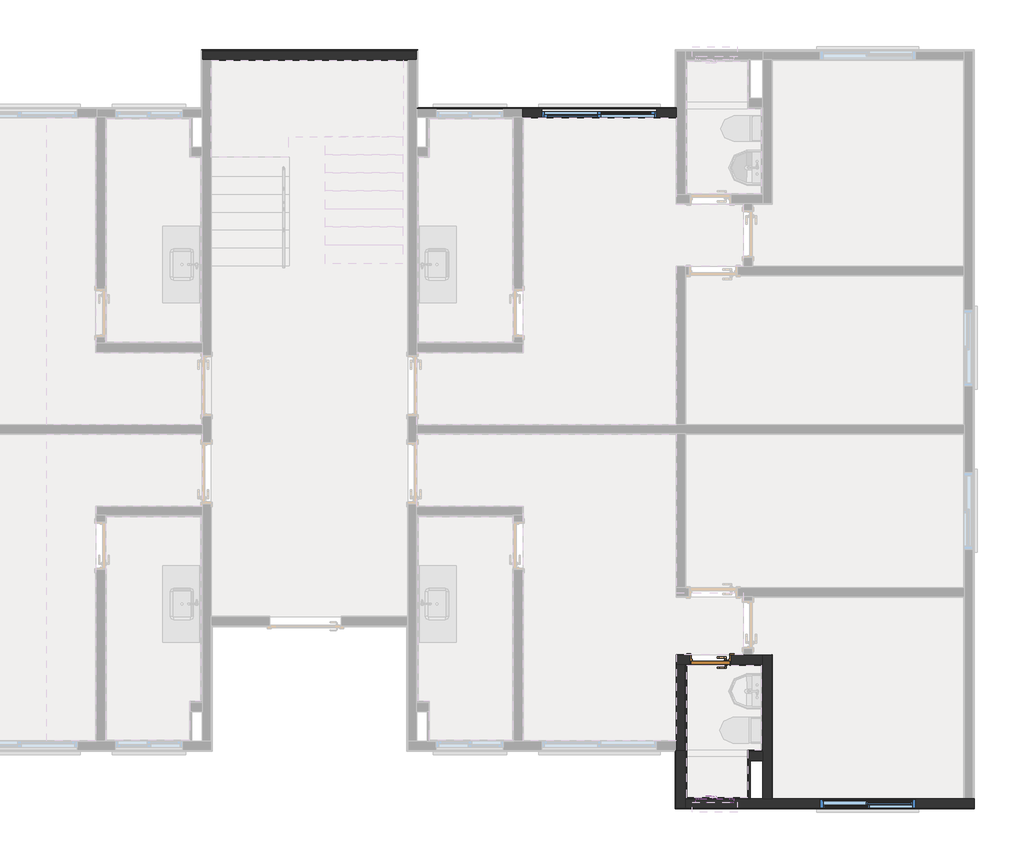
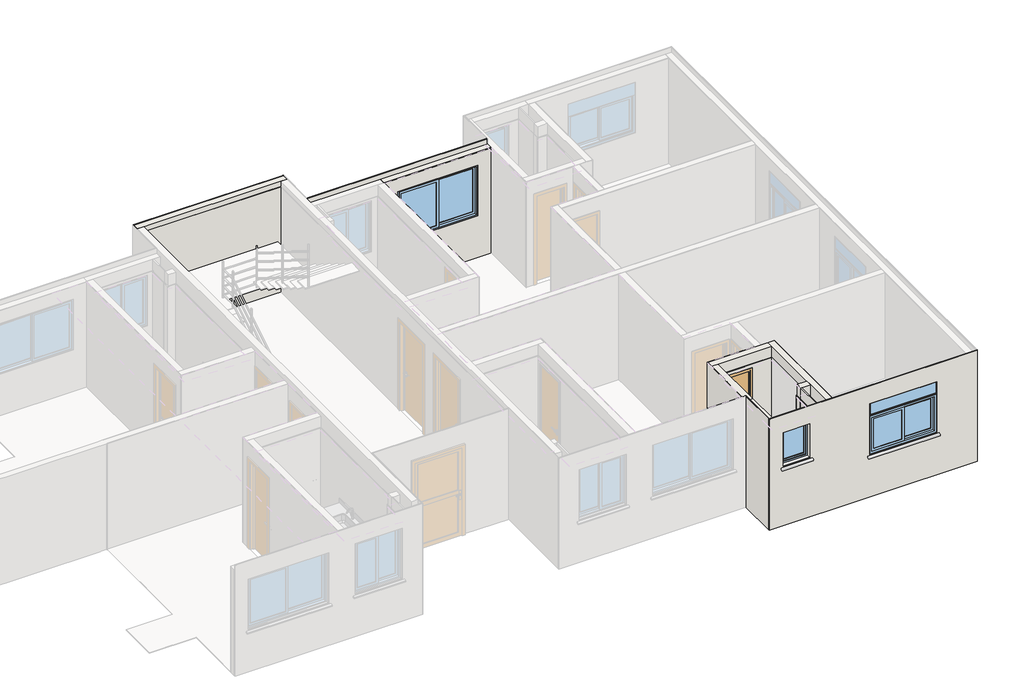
# One storey, part 6 of 9: 26 walls, 3 windows, 1 door.
"""IFC4 building model written with IfcOpenShell, lengths in millimetres."""

from ifc_helpers import new_model, si_unit, frame, origin, place, context, project, spatial, polyline, outline, extrude, faceted_brep, transform, mapped, element, save
from components import porta_de_madeira_interna_60_x_210_porta_de_madeira_interna_6d4bee1b, window_150x120_d34a449e, window_180x120_f0fd8075, window_60x80_6d4336cf

model = new_model("IFC4")

# Units and contexts
model_context = context("Model", 3, world=origin())
ifc_project = project(units=[si_unit("LENGTHUNIT", "METRE", prefix="MILLI")], contexts=[model_context])

# Site, building, storey
site = spatial("IfcSite", under=ifc_project)
building = spatial("IfcBuilding", under=site)
storey = spatial("IfcBuildingStorey", under=building, Name="2º Pavimento", Elevation=2630.0)

# Door
placement = place(None, origin())
porta_de_madeira_interna_60_x_210_porta_de_madeira_interna_shape = porta_de_madeira_interna_60_x_210_porta_de_madeira_interna_6d4bee1b(model_context)
element("IfcDoor", 1, ObjectType="Porta de Madeira Interna 60 x 210 : Porta de Madeira Interna 60 x 210", at=placement, inside=storey, context=model_context, shape_type="MappedRepresentation", body=[
    mapped(porta_de_madeira_interna_60_x_210_porta_de_madeira_interna_shape, transform((16681.9956991, 2796.8217615, 2630.0), x_axis=(-1.0, 0.0, 0.0), y_axis=(0.0, -1.0, 0.0), z_axis=(0.0, 0.0, 1.0))),
])

# Walls
element("IfcWall", 2, ObjectType="Mureta box", at=placement, inside=storey, context=model_context, shape_type="SweptSolid", body=[
    extrude(outline(polyline([(17290.0007274, 1294.9970972), (16310.0007274, 1294.9970972), (16310.0007274, 1304.9970972), (17290.0007274, 1304.9970972), (17290.0007274, 1294.9970972)])), frame((0.0, 0.0, 2630.0), z_axis=(0.0, 0.0, 1.0), x_axis=(1.0, 0.0, 0.0)), (0.0, 0.0, 1.0), 90.0),
    extrude(outline(polyline([(16310.0007274, 1374.9970972), (17290.0007274, 1374.9970972), (17290.0007274, 1364.9970972), (16310.0007274, 1364.9970972), (16310.0007274, 1374.9970972)])), frame((0.0, 0.0, 2630.0), z_axis=(0.0, 0.0, 1.0), x_axis=(1.0, 0.0, 0.0)), (0.0, 0.0, 1.0), 90.0),
    extrude(outline(polyline([(17290.0007274, 1364.9970972), (17290.0007274, 1304.9970972), (16310.0007274, 1304.9970972), (16310.0007274, 1364.9970972), (17290.0007274, 1364.9970972)])), frame((0.0, 0.0, 2630.0), z_axis=(0.0, 0.0, 1.0), x_axis=(1.0, 0.0, 0.0)), (0.0, 0.0, 1.0), 90.0),
])
element("IfcWall", 3, ObjectType="Alvenaria Estrutural", at=placement, inside=storey, context=model_context, shape_type="Brep", body=[
    faceted_brep([(12089.9984066, 12179.9995833, 2630.0), (12089.9984066, 12179.9995833, 5260.0), (11949.9984066, 12179.9995833, 5260.0), (8869.9963008, 12179.9995833, 5260.0), (8729.9963008, 12179.9995833, 5260.0), (8729.9963008, 12179.9995833, 2630.0), (8869.9963008, 12179.9995833, 2630.0), (8875.9991022, 12179.9995833, 2630.0), (11949.9984066, 12179.9995833, 2630.0), (12089.9984066, 12319.9995833, 2630.0), (8729.9963008, 12319.9995833, 2630.0), (8729.9963008, 12319.9995833, 5260.0), (12089.9984066, 12319.9995833, 5260.0)], [[[0, 1, 2, 3, 4, 5, 6, 7, 8]], [[9, 10, 11, 12]], [[6, 5, 10, 9, 0, 8, 7]], [[2, 1, 12, 11, 4, 3]], [[5, 4, 11, 10]], [[1, 0, 9, 12]]]),
])
element("IfcWall", 4, ObjectType="Alvenaria Estrutural", at=placement, inside=storey, context=model_context, shape_type="Brep", body=[
    faceted_brep([(17499.9970535, 1359.9970972, 2630.0), (17280.0007274, 1359.9970972, 2630.0), (17280.0007274, 1359.9970972, 5140.0), (17499.9970535, 1359.9970972, 5140.0), (17499.9970535, 1219.9970972, 2630.0), (17499.9970535, 1219.9970972, 5140.0), (17303.0007274, 1219.9970972, 5140.0), (17280.0007274, 1219.9970972, 5140.0), (17280.0007274, 1219.9970972, 2630.0), (17303.0007274, 1219.9970972, 2630.0)], [[[0, 1, 2, 3]], [[4, 5, 6, 7, 8, 9]], [[1, 0, 4, 9, 8]], [[3, 2, 7, 6, 5]], [[2, 1, 8, 7]], [[0, 3, 5, 4]]]),
])
element("IfcWall", 5, ObjectType="Alvenaria Estrutural", at=placement, inside=storey, context=model_context, shape_type="Brep", body=[
    faceted_brep([(17639.9970535, 619.9952456, 2630.0), (17639.9970535, 625.9952456, 2630.0), (17639.9970535, 2869.9967615, 2630.0), (17639.9970535, 2869.9967615, 5140.0), (17639.9970535, 625.9952456, 5140.0), (17639.9970535, 619.9952456, 5140.0), (17499.9970535, 619.9952456, 2630.0), (17499.9970535, 619.9952456, 5140.0), (17499.9970535, 1219.9970972, 5140.0), (17499.9970535, 1359.9970972, 5140.0), (17499.9970535, 2729.9967615, 5140.0), (17499.9970535, 2869.9967615, 5140.0), (17499.9970535, 2869.9967615, 2630.0), (17499.9970535, 2729.9967615, 2630.0), (17499.9970535, 2709.9967615, 2630.0), (17499.9970535, 1379.9970972, 2630.0), (17499.9970535, 1359.9970972, 2630.0), (17499.9970535, 1219.9970972, 2630.0)], [[[0, 1, 2, 3, 4, 5]], [[6, 7, 8, 9, 10, 11, 12, 13, 14, 15, 16, 17]], [[1, 0, 6, 17, 16, 15, 14, 13, 12, 2]], [[4, 3, 11, 10, 9, 8, 7, 5]], [[3, 2, 12, 11]], [[0, 5, 7, 6]]]),
])
element("IfcWall", 6, ObjectType="Alvenaria Estrutural", at=placement, inside=storey, context=model_context, shape_type="Brep", body=[
    faceted_brep([(16149.9956991, 2869.9967615, 5140.0), (17193.9966432, 2869.9967615, 5140.0), (17199.9966432, 2869.9967615, 5140.0), (17339.9966432, 2869.9967615, 5140.0), (17499.9970535, 2869.9967615, 5140.0), (17499.9970535, 2869.9967615, 2630.0), (17339.9966432, 2869.9967615, 2630.0), (17199.9966432, 2869.9967615, 2630.0), (17193.9966432, 2869.9967615, 2630.0), (17006.9956991, 2869.9967615, 2630.0), (17006.9956991, 2869.9967615, 4755.0), (16356.9956991, 2869.9967615, 4755.0), (16356.9956991, 2869.9967615, 2630.0), (16149.9956991, 2869.9967615, 2630.0), (17499.9970535, 2729.9967615, 5140.0), (16289.9956991, 2729.9967615, 5140.0), (16149.9956991, 2729.9967615, 5140.0), (16149.9956991, 2729.9967615, 2630.0), (16289.9956991, 2729.9967615, 2630.0), (16356.9956991, 2729.9967615, 2630.0), (16356.9956991, 2729.9967615, 4755.0), (17006.9956991, 2729.9967615, 4755.0), (17006.9956991, 2729.9967615, 2630.0), (17499.9970535, 2729.9967615, 2630.0)], [[[0, 1, 2, 3, 4, 5, 6, 7, 8, 9, 10, 11, 12, 13]], [[14, 15, 16, 17, 18, 19, 20, 21, 22, 23]], [[6, 5, 23, 22, 9, 8, 7]], [[1, 0, 16, 15, 14, 4, 3, 2]], [[12, 11, 20, 19]], [[11, 10, 21, 20]], [[10, 9, 22, 21]], [[0, 13, 17, 16]], [[5, 4, 14, 23]], [[13, 12, 19, 18, 17]]]),
])
element("IfcWall", 7, ObjectType="Alvenaria Estrutural", at=placement, inside=storey, context=model_context, shape_type="Brep", body=[
    faceted_brep([(16289.9960602, 479.9952456, 2630.0), (16289.9960602, 619.9952456, 2630.0), (16289.9960602, 1374.9970972, 2630.0), (16289.9960602, 1374.9970972, 5140.0), (16289.9960602, 619.9952456, 5140.0), (16289.9960602, 479.9952456, 5140.0), (16149.9960602, 479.9952456, 2630.0), (16149.9960602, 479.9952456, 5140.0), (16149.9960602, 1374.9970972, 5140.0), (16149.9960602, 1374.9970972, 2630.0)], [[[0, 1, 2, 3, 4, 5]], [[6, 7, 8, 9]], [[1, 0, 6, 9, 2]], [[3, 2, 9, 8]], [[4, 3, 8, 7, 5]], [[0, 5, 7, 6]]]),
])
element("IfcWall", 8, ObjectType="Alvenaria Estrutural", at=placement, inside=storey, context=model_context, shape_type="Brep", body=[
    faceted_brep([(16289.9956991, 1374.9970972, 2630.0), (16289.9956991, 2709.9967615, 2630.0), (16289.9956991, 2729.9967615, 2630.0), (16289.9956991, 2729.9967615, 4880.0), (16289.9956991, 2729.9967615, 5140.0), (16289.9956991, 1374.9970972, 5140.0), (16149.9956991, 1374.9970972, 2630.0), (16149.9956991, 1374.9970972, 5140.0), (16149.9956991, 1519.9983274, 5140.0), (16149.9956991, 1525.9983274, 5140.0), (16149.9956991, 2729.9967615, 5140.0), (16149.9956991, 2729.9967615, 2630.0), (16149.9956991, 1525.9983274, 2630.0), (16149.9956991, 1519.9983274, 2630.0)], [[[0, 1, 2, 3, 4, 5]], [[6, 7, 8, 9, 10, 11, 12, 13]], [[1, 0, 6, 13, 12, 11, 2]], [[5, 4, 10, 9, 8, 7]], [[0, 5, 7, 6]], [[3, 2, 11, 10, 4]]]),
])
element("IfcWall", 9, ObjectType="Alvenaria Estrutural", at=placement, inside=storey, context=model_context, shape_type="Brep", body=[
    faceted_brep([(16149.9956991, 11420.0223004, 2630.0), (16133.9970535, 11420.0223004, 2630.0), (13739.9956991, 11420.0223004, 2630.0), (13739.9956991, 11420.0223004, 5140.0), (16149.9956991, 11420.0223004, 5140.0), (14044.9954574, 11420.0223004, 4830.0), (14044.9954574, 11420.0223004, 3630.0), (13994.9954574, 11420.0223004, 3630.0), (13994.9954574, 11420.0223004, 3581.3083694), (15894.9954574, 11420.0223004, 3581.3083694), (15894.9954574, 11420.0223004, 3630.0), (15844.9954574, 11420.0223004, 3630.0), (15844.9954574, 11420.0223004, 4830.0), (13739.9956991, 11280.0223004, 2630.0), (13746.9960213, 11280.0223004, 2630.0), (13752.9960213, 11280.0223004, 2630.0), (16143.9956991, 11280.0223004, 2630.0), (16149.9956991, 11280.0223004, 2630.0), (16149.9956991, 11280.0223004, 5140.0), (16143.9956991, 11280.0223004, 5140.0), (13752.9960213, 11280.0223004, 5140.0), (13746.9960213, 11280.0223004, 5140.0), (13739.9956991, 11280.0223004, 5140.0), (14044.9954574, 11280.0223004, 3630.0), (14044.9954574, 11280.0223004, 4830.0), (15844.9954574, 11280.0223004, 4830.0), (15844.9954574, 11280.0223004, 3630.0), (14044.9954574, 11322.5223004, 3630.0), (15844.9954574, 11322.5223004, 3630.0), (15894.9954574, 11322.5223004, 3602.0326341), (15894.9954574, 11322.5223004, 3630.0), (13994.9954574, 11322.5223004, 3630.0), (13994.9954574, 11322.5223004, 3602.0326341)], [[[0, 1, 2, 3, 4], [5, 6, 7, 8, 9, 10, 11, 12]], [[13, 14, 15, 16, 17, 18, 19, 20, 21, 22], [23, 24, 25, 26]], [[1, 0, 17, 16, 15, 14, 13, 2]], [[3, 2, 13, 22]], [[4, 3, 22, 21, 20, 19, 18]], [[0, 4, 18, 17]], [[6, 5, 24, 23, 27]], [[5, 12, 25, 24]], [[12, 11, 28, 26, 25]], [[23, 26, 28, 27]], [[10, 9, 29, 30]], [[8, 7, 31, 32]], [[27, 28, 30, 29, 32, 31]], [[11, 10, 30, 28]], [[9, 8, 32, 29]], [[7, 6, 27, 31]]]),
])
element("IfcWall", 10, ObjectType="Alvenaria Estrutural", at=placement, inside=storey, context=model_context, shape_type="Brep", body=[
    faceted_brep([(20805.9970535, 619.9952456, 2630.0), (20789.9970535, 619.9952456, 2630.0), (20649.9955249, 619.9952456, 2630.0), (20643.9955249, 619.9952456, 2630.0), (17639.9970535, 619.9952456, 2630.0), (17499.9970535, 619.9952456, 2630.0), (17303.0007274, 619.9952456, 2630.0), (17280.0007274, 619.9952456, 2630.0), (16309.9956991, 619.9952456, 2630.0), (16289.9960602, 619.9952456, 2630.0), (16289.9960602, 619.9952456, 4880.0), (16289.9960602, 619.9952456, 5140.0), (17280.0007274, 619.9952456, 5140.0), (17303.0007274, 619.9952456, 5140.0), (17499.9970535, 619.9952456, 5140.0), (17639.9970535, 619.9952456, 5140.0), (20643.9955249, 619.9952456, 5140.0), (20649.9955249, 619.9952456, 5140.0), (20789.9970535, 619.9952456, 5140.0), (20805.9970535, 619.9952456, 5140.0), (16449.9960602, 619.9952456, 4830.0), (16449.9960602, 619.9952456, 4030.0), (17049.9960602, 619.9952456, 4030.0), (17049.9960602, 619.9952456, 4830.0), (18394.9962631, 619.9952456, 4830.0), (18394.9962631, 619.9952456, 3630.0), (19894.9962631, 619.9952456, 3630.0), (19894.9962631, 619.9952456, 4830.0), (16289.9960602, 479.9952456, 2630.0), (20805.9970535, 479.9952456, 2630.0), (20805.9970535, 479.9952456, 5140.0), (20789.9970535, 479.9952456, 5140.0), (16289.9960602, 479.9952456, 5140.0), (17099.9960602, 479.9952456, 4030.0), (17099.9960602, 479.9952456, 3981.3083694), (16399.9960602, 479.9952456, 3981.3083694), (16399.9960602, 479.9952456, 4030.0), (16449.9960602, 479.9952456, 4030.0), (16449.9960602, 479.9952456, 4830.0), (17049.9960602, 479.9952456, 4830.0), (17049.9960602, 479.9952456, 4030.0), (19944.9962631, 479.9952456, 3630.0), (19944.9962631, 479.9952456, 3581.3083694), (18344.9962631, 479.9952456, 3581.3083694), (18344.9962631, 479.9952456, 3630.0), (18394.9962631, 479.9952456, 3630.0), (18394.9962631, 479.9952456, 4830.0), (19894.9962631, 479.9952456, 4830.0), (19894.9962631, 479.9952456, 3630.0), (19944.9962631, 577.4952456, 3630.0), (19944.9962631, 577.4952456, 3602.0326341), (18344.9962631, 577.4952456, 3602.0326341), (18344.9962631, 577.4952456, 3630.0), (19894.9962631, 577.4952456, 3630.0), (18394.9962631, 577.4952456, 3630.0), (17099.9960602, 577.4952456, 4030.0), (17099.9960602, 577.4952456, 4002.0326341), (16399.9960602, 577.4952456, 4002.0326341), (16399.9960602, 577.4952456, 4030.0), (17049.9960602, 577.4952456, 4030.0), (16449.9960602, 577.4952456, 4030.0)], [[[0, 1, 2, 3, 4, 5, 6, 7, 8, 9, 10, 11, 12, 13, 14, 15, 16, 17, 18, 19], [20, 21, 22, 23], [24, 25, 26, 27]], [[28, 29, 30, 31, 32], [33, 34, 35, 36, 37, 38, 39, 40], [41, 42, 43, 44, 45, 46, 47, 48]], [[1, 0, 29, 28, 9, 8, 7, 6, 5, 4, 3, 2]], [[12, 11, 32, 31, 30, 19, 18, 17, 16, 15, 14, 13]], [[42, 41, 49, 50]], [[44, 43, 51, 52]], [[50, 49, 53, 54, 52, 51]], [[41, 48, 53, 49]], [[43, 42, 50, 51]], [[25, 24, 46, 45, 54]], [[24, 27, 47, 46]], [[27, 26, 53, 48, 47]], [[26, 25, 54, 53]], [[34, 33, 55, 56]], [[36, 35, 57, 58]], [[56, 55, 59, 60, 58, 57]], [[33, 40, 59, 55]], [[35, 34, 56, 57]], [[21, 20, 38, 37, 60]], [[20, 23, 39, 38]], [[23, 22, 59, 40, 39]], [[22, 21, 60, 59]], [[0, 19, 30, 29]], [[10, 9, 28, 32, 11]], [[37, 36, 58, 60]], [[45, 44, 52, 54]]]),
])
element("IfcWall", 11, ObjectType="Azulejo", at=placement, inside=storey, context=model_context, shape_type="SolidModel", body=[
    faceted_brep([(17479.9970535, 2709.9967615, 2630.0), (17006.9956991, 2709.9967615, 2630.0), (17006.9956991, 2719.9967615, 2630.0), (17489.9970535, 2719.9967615, 2630.0), (17489.9970535, 2709.9967615, 2630.0), (16309.9956991, 2709.9967615, 4880.0), (17479.9970535, 2709.9967615, 4880.0), (17489.9970535, 2709.9967615, 4880.0), (17489.9970535, 2719.9967615, 4880.0), (16299.9956991, 2719.9967615, 4880.0), (16299.9956991, 2709.9967615, 4880.0), (16356.9956991, 2709.9967615, 4755.0), (16356.9956991, 2709.9967615, 2630.0), (16356.9956991, 2719.9967615, 2630.0), (16356.9956991, 2719.9967615, 4755.0), (17006.9956991, 2719.9967615, 4755.0), (17006.9956991, 2709.9967615, 4755.0), (16309.9956991, 2709.9967615, 2630.0), (16299.9956991, 2709.9967615, 2630.0), (16299.9956991, 2719.9967615, 2630.0)], [[[0, 1, 2, 3, 4]], [[5, 6, 7, 8, 9, 10]], [[11, 12, 13, 14]], [[11, 14, 15, 16]], [[2, 1, 16, 15]], [[13, 12, 17, 18, 19]], [[14, 13, 19, 9, 8, 3, 2, 15]], [[1, 0, 4, 7, 6, 5, 10, 18, 17, 12, 11, 16]], [[4, 3, 8, 7]], [[10, 9, 19, 18]]]),
    extrude(outline(polyline([(2630.0, 17006.9956991), (2630.0, 17499.9970535), (4880.0, 17499.9970535), (4880.0, 16289.9956991), (2630.0, 16289.9956991), (2630.0, 16356.9956991), (4755.0, 16356.9956991), (4755.0, 17006.9956991), (2630.0, 17006.9956991)])), frame((0.0, 2719.9967615, 0.0), z_axis=(0.0, 1.0, 0.0), x_axis=(0.0, 0.0, 1.0)), (0.0, 0.0, 1.0), 10.0),
])
element("IfcWall", 12, ObjectType="Azulejo", at=placement, inside=storey, context=model_context, shape_type="SolidModel", body=[
    faceted_brep([(16299.9956991, 2709.9967615, 2630.0), (16309.9956991, 2709.9967615, 2630.0), (16309.9956991, 639.9950349, 2630.0), (16309.9956991, 629.9950349, 2630.0), (16299.9956991, 629.9950349, 2630.0), (16309.9956991, 639.9950349, 4880.0), (16309.9956991, 2709.9967615, 4880.0), (16299.9956991, 2709.9967615, 4880.0), (16299.9956991, 629.9950349, 4880.0), (16309.9956991, 629.9950349, 4880.0)], [[[0, 1, 2, 3, 4]], [[5, 6, 7, 8, 9]], [[1, 0, 7, 6]], [[7, 0, 4, 8]], [[2, 1, 6, 5, 9, 3]], [[4, 3, 9, 8]]]),
    extrude(outline(polyline([(16289.9956991, 619.9952456), (16289.9956991, 2719.9967615), (16299.9956991, 2719.9967615), (16299.9956991, 619.9952456), (16289.9956991, 619.9952456)])), frame((0.0, 0.0, 2630.0), z_axis=(0.0, 0.0, 1.0), x_axis=(1.0, 0.0, 0.0)), (0.0, 0.0, 1.0), 2250.0),
])
element("IfcWall", 13, ObjectType="Azulejo", at=placement, inside=storey, context=model_context, shape_type="SolidModel", body=[
    faceted_brep([(17270.0007274, 639.9950349, 2630.0), (17280.0007274, 639.9950349, 2630.0), (17280.0007274, 629.9950349, 2630.0), (16309.9956991, 629.9950349, 2630.0), (16309.9956991, 639.9950349, 2630.0), (17270.0007274, 639.9950349, 4880.0), (16309.9956991, 639.9950349, 4880.0), (16309.9956991, 629.9950349, 4880.0), (17280.0007274, 629.9950349, 4880.0), (17280.0007274, 639.9950349, 4880.0), (16449.9960602, 639.9950349, 4030.0), (16449.9960602, 639.9950349, 4830.0), (16449.9960602, 629.9950349, 4830.0), (16449.9960602, 629.9950349, 4030.0), (17049.9960602, 639.9950349, 4830.0), (17049.9960602, 629.9950349, 4830.0), (17049.9960602, 639.9950349, 4030.0), (17049.9960602, 629.9950349, 4030.0)], [[[0, 1, 2, 3, 4]], [[5, 6, 7, 8, 9]], [[10, 11, 12, 13]], [[11, 14, 15, 12]], [[14, 16, 17, 15]], [[16, 10, 13, 17]], [[6, 4, 3, 7]], [[1, 9, 8, 2]], [[3, 2, 8, 7], [13, 12, 15, 17]], [[4, 6, 5, 9, 1, 0], [10, 16, 14, 11]]]),
    extrude(outline(polyline([(2630.0, 16299.9956991), (2630.0, 17280.0007274), (4880.0, 17280.0007274), (4880.0, 16299.9956991), (2630.0, 16299.9956991)]), holes=[polyline([(4030.0, 16449.9960602), (4830.0, 16449.9960602), (4830.0, 17049.9960602), (4030.0, 17049.9960602), (4030.0, 16449.9960602)])]), frame((0.0, 619.9950349, 0.0), z_axis=(0.0, 1.0, 0.0), x_axis=(0.0, 0.0, 1.0)), (0.0, 0.0, 1.0), 10.0),
])
element("IfcWall", 14, ObjectType="Azulejo", at=placement, inside=storey, context=model_context, shape_type="SweptSolid", body=[
    extrude(outline(polyline([(17270.0007274, 1219.9970972), (17270.0007274, 1369.9970972), (17280.0007274, 1369.9970972), (17280.0007274, 1219.9970972), (17270.0007274, 1219.9970972)])), frame((0.0, 0.0, 2630.0), z_axis=(0.0, 0.0, 1.0), x_axis=(1.0, 0.0, 0.0)), (0.0, 0.0, 1.0), 2250.0),
    extrude(outline(polyline([(17290.0007274, 1359.9970972), (17290.0007274, 1219.9970972), (17280.0007274, 1219.9970972), (17280.0007274, 1359.9970972), (17290.0007274, 1359.9970972)])), frame((0.0, 0.0, 2630.0), z_axis=(0.0, 0.0, 1.0), x_axis=(1.0, 0.0, 0.0)), (0.0, 0.0, 1.0), 2250.0),
])
element("IfcWall", 15, ObjectType="Azulejo", at=placement, inside=storey, context=model_context, shape_type="Brep", body=[
    faceted_brep([(17270.0007274, 1369.9970972, 2630.0), (17270.0007274, 1379.9970972, 2630.0), (17479.9970535, 1379.9970972, 2630.0), (17489.9970535, 1379.9970972, 2630.0), (17489.9970535, 1369.9970972, 2630.0), (17479.9970535, 1379.9970972, 4880.0), (17270.0007274, 1379.9970972, 4880.0), (17270.0007274, 1369.9970972, 4880.0), (17489.9970535, 1369.9970972, 4880.0), (17489.9970535, 1379.9970972, 4880.0)], [[[0, 1, 2, 3, 4]], [[5, 6, 7, 8, 9]], [[1, 0, 7, 6]], [[7, 0, 4, 8]], [[2, 1, 6, 5, 9, 3]], [[4, 3, 9, 8]]]),
    faceted_brep([(17499.9970535, 1369.9970972, 2630.0), (17280.0007274, 1369.9970972, 2630.0), (17280.0007274, 1369.9970972, 4880.0), (17499.9970535, 1369.9970972, 4880.0), (17499.9970535, 1359.9970972, 2630.0), (17499.9970535, 1359.9970972, 4880.0), (17290.0007274, 1359.9970972, 4880.0), (17280.0007274, 1359.9970972, 4880.0), (17280.0007274, 1359.9970972, 2630.0), (17290.0007274, 1359.9970972, 2630.0)], [[[0, 1, 2, 3]], [[4, 5, 6, 7, 8, 9]], [[9, 8, 1, 0, 4]], [[6, 5, 3, 2, 7]], [[5, 4, 0, 3]], [[8, 7, 2, 1]]]),
])
element("IfcWall", 16, ObjectType="Azulejo - Shaft", at=placement, inside=storey, context=model_context, shape_type="SweptSolid", body=[
    extrude(outline(polyline([(17280.0007274, 1219.9970972), (17280.0007274, 639.9950349), (17270.0007274, 639.9950349), (17270.0007274, 1219.9970972), (17280.0007274, 1219.9970972)])), frame((0.0, 0.0, 2630.0), z_axis=(0.0, 0.0, 1.0), x_axis=(1.0, 0.0, 0.0)), (0.0, 0.0, 1.0), 2250.0),
])
element("IfcWall", 17, ObjectType="Gesso Liso + Pintura", at=placement, inside=storey, context=model_context, shape_type="SolidModel", body=[
    faceted_brep([(17645.9970535, 625.9952456, 2630.0), (20643.9955249, 625.9952456, 2630.0), (20643.9955249, 624.9952456, 2630.0), (17644.9970535, 624.9952456, 2630.0), (17644.9970535, 625.9952456, 2630.0), (20643.9955249, 624.9952456, 5140.0), (20643.9955249, 625.9952456, 5140.0), (17645.9970535, 625.9952456, 5140.0), (17644.9970535, 625.9952456, 5140.0), (17644.9970535, 624.9952456, 5140.0), (18394.9962631, 625.9952456, 3630.0), (18394.9962631, 625.9952456, 4830.0), (18394.9962631, 624.9952456, 4830.0), (18394.9962631, 624.9952456, 3630.0), (19894.9962631, 625.9952456, 4830.0), (19894.9962631, 624.9952456, 4830.0), (19894.9962631, 625.9952456, 3630.0), (19894.9962631, 624.9952456, 3630.0)], [[[0, 1, 2, 3, 4]], [[5, 6, 7, 8, 9]], [[10, 11, 12, 13]], [[12, 11, 14, 15]], [[15, 14, 16, 17]], [[10, 13, 17, 16]], [[2, 1, 6, 5]], [[2, 5, 9, 3], [13, 12, 15, 17]], [[1, 0, 4, 8, 7, 6], [11, 10, 16, 14]], [[4, 3, 9, 8]]]),
    extrude(outline(polyline([(2630.0, 20644.9955249), (5140.0, 20644.9955249), (5140.0, 17639.9970535), (2630.0, 17639.9970535), (2630.0, 20644.9955249)]), holes=[polyline([(3630.0, 18394.9962631), (4830.0, 18394.9962631), (4830.0, 19894.9962631), (3630.0, 19894.9962631), (3630.0, 18394.9962631)])]), frame((0.0, 619.9952456, 0.0), z_axis=(0.0, 1.0, 0.0), x_axis=(0.0, 0.0, 1.0)), (0.0, 0.0, 1.0), 5.0),
])
element("IfcWall", 18, ObjectType="Gesso Liso + Pintura", at=placement, inside=storey, context=model_context, shape_type="SolidModel", body=[
    extrude(outline(polyline([(17645.9970535, 2875.9967615), (17645.9970535, 625.9952456), (17644.9970535, 625.9952456), (17644.9970535, 2875.9967615), (17645.9970535, 2875.9967615)])), frame((0.0, 0.0, 2630.0), z_axis=(0.0, 0.0, 1.0), x_axis=(1.0, 0.0, 0.0)), (0.0, 0.0, 1.0), 2510.0),
    faceted_brep([(17644.9970535, 624.9952456, 2630.0), (17644.9970535, 2874.9967615, 2630.0), (17644.9970535, 2874.9967615, 5140.0), (17644.9970535, 624.9952456, 5140.0), (17639.9970535, 624.9952456, 2630.0), (17639.9970535, 624.9952456, 5140.0), (17639.9970535, 2869.9967615, 5140.0), (17639.9970535, 2874.9967615, 5140.0), (17639.9970535, 2874.9967615, 2630.0), (17639.9970535, 2869.9967615, 2630.0)], [[[0, 1, 2, 3]], [[4, 5, 6, 7, 8, 9]], [[9, 8, 1, 0, 4]], [[6, 5, 3, 2, 7]], [[5, 4, 0, 3]], [[8, 7, 2, 1]]]),
])
element("IfcWall", 19, ObjectType="Gesso Liso + Pintura", at=placement, inside=storey, context=model_context, shape_type="Brep", body=[
    faceted_brep([(16143.9956991, 1449.9983274, 2640.0), (16144.9956991, 1449.9983274, 2640.0), (16144.9956991, 1519.9983274, 2640.0), (16143.9956991, 1519.9983274, 2640.0), (16143.9956991, 1449.9983274, 2630.0), (16143.9956991, 2875.9967615, 2630.0), (16144.9956991, 2875.9967615, 2630.0), (16144.9956991, 1449.9983274, 2630.0), (16143.9956991, 2875.9967615, 2640.0), (16143.9956991, 2875.9967615, 5140.0), (16144.9956991, 2875.9967615, 5140.0), (16144.9956991, 2875.9967615, 2640.0), (16143.9956991, 1519.9983274, 5140.0), (16144.9956991, 1519.9983274, 5140.0)], [[[0, 1, 2, 3]], [[4, 5, 6, 7]], [[4, 7, 1, 0]], [[6, 5, 8, 9, 10, 11]], [[5, 4, 0, 3, 12, 9, 8]], [[7, 6, 11, 10, 13, 2, 1]], [[12, 3, 2, 13]], [[9, 12, 13, 10]]]),
    faceted_brep([(16144.9956991, 1519.9983274, 2640.0), (16144.9956991, 1449.9983274, 2640.0), (16149.9956991, 1449.9983274, 2640.0), (16149.9956991, 1519.9983274, 2640.0), (16144.9956991, 2874.9967615, 2630.0), (16144.9956991, 1449.9983274, 2630.0), (16144.9956991, 1519.9983274, 5140.0), (16144.9956991, 2874.9967615, 5140.0), (16144.9956991, 2874.9967615, 2640.0), (16149.9956991, 2874.9967615, 2630.0), (16149.9956991, 2869.9967615, 2630.0), (16149.9956991, 1449.9983274, 2630.0), (16149.9956991, 2874.9967615, 2640.0), (16149.9956991, 2874.9967615, 5140.0), (16149.9956991, 2869.9967615, 5140.0), (16149.9956991, 1519.9983274, 5140.0)], [[[0, 1, 2, 3]], [[4, 5, 1, 0, 6, 7, 8]], [[5, 4, 9, 10, 11]], [[1, 5, 11, 2]], [[11, 10, 9, 12, 13, 14, 15, 3, 2]], [[12, 9, 4, 8, 7, 13]], [[6, 0, 3, 15]], [[7, 6, 15, 14, 13]]]),
])
element("IfcWall", 20, ObjectType="Gesso Liso + Pintura", at=placement, inside=storey, context=model_context, shape_type="SweptSolid", body=[
    extrude(outline(polyline([(2630.0, 16144.9956991), (2630.0, 16356.9956991), (4755.0, 16356.9956991), (4755.0, 17006.9956991), (2630.0, 17006.9956991), (2630.0, 17199.9966432), (5140.0, 17199.9966432), (5140.0, 16144.9956991), (2630.0, 16144.9956991)])), frame((0.0, 2874.9967615, 0.0), z_axis=(0.0, 1.0, 0.0), x_axis=(0.0, 0.0, 1.0)), (0.0, 0.0, 1.0), 1.0),
    extrude(outline(polyline([(5140.0, 17199.9966432), (5140.0, 16149.9956991), (2630.0, 16149.9956991), (2630.0, 16356.9956991), (4755.0, 16356.9956991), (4755.0, 17006.9956991), (2630.0, 17006.9956991), (2630.0, 17199.9966432), (5140.0, 17199.9966432)])), frame((0.0, 2869.9967615, 0.0), z_axis=(0.0, 1.0, 0.0), x_axis=(0.0, 0.0, 1.0)), (0.0, 0.0, 1.0), 5.0),
])
element("IfcWall", 21, ObjectType="Gesso Liso + Pintura", at=placement, inside=storey, context=model_context, shape_type="SweptSolid", body=[
    extrude(outline(polyline([(2630.0, 13746.9960213), (2630.0, 16149.9960602), (5140.0, 16149.9960602), (5140.0, 13746.9960213), (2630.0, 13746.9960213)]), holes=[polyline([(3630.0, 14044.9954574), (4830.0, 14044.9954574), (4830.0, 15844.9954574), (3630.0, 15844.9954574), (3630.0, 14044.9954574)])]), frame((0.0, 11274.0223004, 0.0), z_axis=(0.0, 1.0, 0.0), x_axis=(0.0, 0.0, 1.0)), (0.0, 0.0, 1.0), 1.0),
    extrude(outline(polyline([(2630.0, 13746.9960213), (2630.0, 16149.9960602), (5140.0, 16149.9960602), (5140.0, 13746.9960213), (2630.0, 13746.9960213)]), holes=[polyline([(3630.0, 14044.9954574), (4830.0, 14044.9954574), (4830.0, 15844.9954574), (3630.0, 15844.9954574), (3630.0, 14044.9954574)])]), frame((0.0, 11275.0223004, 0.0), z_axis=(0.0, 1.0, 0.0), x_axis=(0.0, 0.0, 1.0)), (0.0, 0.0, 1.0), 5.0),
])
element("IfcWall", 22, ObjectType="Gesso Liso + Pintura", at=placement, inside=storey, context=model_context, shape_type="SolidModel", body=[
    faceted_brep([(11943.9984066, 12173.9995833, 2630.0), (8875.9991022, 12173.9995833, 2630.0), (8875.9991022, 12174.9995833, 2630.0), (11944.9984066, 12174.9995833, 2630.0), (11944.9984066, 12173.9995833, 2630.0), (8875.9991022, 12174.9995833, 5140.0), (8875.9991022, 12173.9995833, 5140.0), (11943.9984066, 12173.9995833, 5140.0), (11944.9984066, 12173.9995833, 5140.0), (11944.9984066, 12174.9995833, 5140.0)], [[[0, 1, 2, 3, 4]], [[5, 6, 7, 8, 9]], [[2, 1, 6, 5]], [[2, 5, 9, 3]], [[1, 0, 4, 8, 7, 6]], [[4, 3, 9, 8]]]),
    extrude(outline(polyline([(8874.9991022, 12179.9995833), (11949.9984066, 12179.9995833), (11949.9984066, 12174.9995833), (8874.9991022, 12174.9995833), (8874.9991022, 12179.9995833)])), frame((0.0, 0.0, 2630.0), z_axis=(0.0, 0.0, 1.0), x_axis=(1.0, 0.0, 0.0)), (0.0, 0.0, 1.0), 2510.0),
])
element("IfcWall", 23, ObjectType="Reboco + Pintura Externa", at=placement, inside=storey, context=model_context, shape_type="Brep", body=[
    faceted_brep([(16449.9960602, 464.9952456, 4030.0), (16449.9960602, 464.9952456, 4830.0), (16449.9960602, 463.9952456, 4830.0), (16449.9960602, 463.9952456, 4030.0), (17049.9960602, 464.9952456, 4030.0), (17049.9960602, 463.9952456, 4030.0), (17049.9960602, 464.9952456, 4830.0), (17049.9960602, 463.9952456, 4830.0), (18394.9962631, 464.9952456, 3630.0), (18394.9962631, 464.9952456, 4830.0), (18394.9962631, 463.9952456, 4830.0), (18394.9962631, 463.9952456, 3630.0), (19894.9962631, 464.9952456, 3630.0), (19894.9962631, 463.9952456, 3630.0), (19894.9962631, 464.9952456, 4830.0), (19894.9962631, 463.9952456, 4830.0), (16133.9960602, 464.9952456, 2630.0), (20805.9970535, 464.9952456, 2630.0), (20805.9970535, 463.9952456, 2630.0), (16133.9960602, 463.9952456, 2630.0), (16133.9960602, 464.9952456, 5140.0), (16133.9960602, 463.9952456, 5140.0), (16133.9960602, 463.9952456, 5260.0), (16133.9960602, 464.9952456, 5260.0), (20805.9970535, 464.9952456, 5140.0), (20805.9970535, 464.9952456, 5260.0), (20805.9970535, 463.9952456, 5260.0), (20805.9970535, 463.9952456, 5140.0)], [[[0, 1, 2, 3]], [[4, 0, 3, 5]], [[6, 4, 5, 7]], [[1, 6, 7, 2]], [[8, 9, 10, 11]], [[12, 8, 11, 13]], [[14, 12, 13, 15]], [[9, 14, 15, 10]], [[16, 17, 18, 19]], [[20, 16, 19, 21, 22, 23]], [[17, 24, 25, 26, 27, 18]], [[17, 16, 20, 23, 25, 24], [1, 0, 4, 6], [9, 8, 12, 14]], [[19, 18, 27, 26, 22, 21], [3, 2, 7, 5], [11, 10, 15, 13]], [[25, 23, 22, 26]]]),
    faceted_brep([(16144.9960602, 474.9952456, 2630.0), (20805.9970535, 474.9952456, 2630.0), (20805.9970535, 474.9952456, 5140.0), (20805.9970535, 474.9952456, 5260.0), (16144.9960602, 474.9952456, 5260.0), (16144.9960602, 474.9952456, 5140.0), (18394.9962631, 474.9952456, 3630.0), (18394.9962631, 474.9952456, 4830.0), (19894.9962631, 474.9952456, 4830.0), (19894.9962631, 474.9952456, 3630.0), (16449.9960602, 474.9952456, 4030.0), (16449.9960602, 474.9952456, 4830.0), (17049.9960602, 474.9952456, 4830.0), (17049.9960602, 474.9952456, 4030.0), (16449.9960602, 479.9952456, 4030.0), (16449.9960602, 479.9952456, 4830.0), (17049.9960602, 479.9952456, 4030.0), (17049.9960602, 479.9952456, 4830.0), (18394.9962631, 479.9952456, 3630.0), (18394.9962631, 479.9952456, 4830.0), (19894.9962631, 479.9952456, 3630.0), (19894.9962631, 479.9952456, 4830.0), (16144.9960602, 479.9952456, 2630.0), (16149.9960602, 479.9952456, 2630.0), (16289.9960602, 479.9952456, 2630.0), (20805.9970535, 479.9952456, 2630.0), (20805.9970535, 479.9952456, 5140.0), (20805.9970535, 479.9952456, 5260.0), (16144.9960602, 479.9952456, 5140.0), (16144.9960602, 479.9952456, 5260.0), (16149.9960602, 479.9952456, 5260.0), (20789.9970535, 479.9952456, 5260.0)], [[[0, 1, 2, 3, 4, 5], [6, 7, 8, 9], [10, 11, 12, 13]], [[11, 10, 14, 15]], [[10, 13, 16, 14]], [[13, 12, 17, 16]], [[12, 11, 15, 17]], [[7, 6, 18, 19]], [[6, 9, 20, 18]], [[9, 8, 21, 20]], [[8, 7, 19, 21]], [[1, 0, 22, 23, 24, 25]], [[2, 1, 25, 26, 27, 3]], [[25, 24, 23, 22, 28, 29, 30, 31, 27, 26], [15, 14, 16, 17], [19, 18, 20, 21]], [[28, 22, 0, 5, 4, 29]], [[4, 3, 27, 31, 30, 29]]]),
    faceted_brep([(20805.9970535, 474.9952456, 2630.0), (16134.9960602, 474.9952456, 2630.0), (16134.9960602, 474.9952456, 5140.0), (16134.9960602, 474.9952456, 5260.0), (20805.9970535, 474.9952456, 5260.0), (20805.9970535, 474.9952456, 5140.0), (18394.9962631, 474.9952456, 4830.0), (18394.9962631, 474.9952456, 3630.0), (19894.9962631, 474.9952456, 3630.0), (19894.9962631, 474.9952456, 4830.0), (16449.9960602, 474.9952456, 4830.0), (16449.9960602, 474.9952456, 4030.0), (17049.9960602, 474.9952456, 4030.0), (17049.9960602, 474.9952456, 4830.0), (16449.9960602, 464.9952456, 4830.0), (16449.9960602, 464.9952456, 4030.0), (17049.9960602, 464.9952456, 4030.0), (17049.9960602, 464.9952456, 4830.0), (18394.9962631, 464.9952456, 4830.0), (18394.9962631, 464.9952456, 3630.0), (19894.9962631, 464.9952456, 3630.0), (19894.9962631, 464.9952456, 4830.0), (20805.9970535, 464.9952456, 2630.0), (16134.9960602, 464.9952456, 2630.0), (20805.9970535, 464.9952456, 5260.0), (20805.9970535, 464.9952456, 5140.0), (16134.9960602, 464.9952456, 5260.0), (16134.9960602, 464.9952456, 5140.0)], [[[0, 1, 2, 3, 4, 5], [6, 7, 8, 9], [10, 11, 12, 13]], [[11, 10, 14, 15]], [[12, 11, 15, 16]], [[13, 12, 16, 17]], [[10, 13, 17, 14]], [[7, 6, 18, 19]], [[8, 7, 19, 20]], [[9, 8, 20, 21]], [[6, 9, 21, 18]], [[1, 0, 22, 23]], [[0, 5, 4, 24, 25, 22]], [[23, 22, 25, 24, 26, 27], [15, 14, 17, 16], [19, 18, 21, 20]], [[1, 23, 27, 26, 3, 2]], [[4, 3, 26, 24]]]),
])
element("IfcWall", 24, ObjectType="Reboco + Pintura Externa", at=placement, inside=storey, context=model_context, shape_type="SolidModel", body=[
    faceted_brep([(16133.9960602, 464.9952456, 2630.0), (16133.9960602, 1363.9983274, 2630.0), (16133.9960602, 1364.9983274, 2630.0), (16134.9960602, 1364.9983274, 2630.0), (16134.9960602, 464.9952456, 2630.0), (16134.9960602, 464.9952456, 2640.0), (16134.9960602, 1364.9983274, 2640.0), (16134.9960602, 1364.9983274, 5140.0), (16134.9960602, 1364.9983274, 5150.0), (16134.9960602, 1364.9983274, 5260.0), (16134.9960602, 464.9952456, 5260.0), (16134.9960602, 464.9952456, 5150.0), (16134.9960602, 464.9952456, 5140.0), (16133.9960602, 464.9952456, 2640.0), (16133.9960602, 464.9952456, 5260.0), (16133.9960602, 464.9952456, 5150.0), (16133.9960602, 464.9952456, 5140.0), (16133.9960602, 1364.9983274, 2640.0), (16133.9960602, 1364.9983274, 5140.0), (16133.9960602, 1364.9983274, 5150.0), (16133.9960602, 1364.9983274, 5260.0), (16133.9960602, 1363.9983274, 5260.0)], [[[0, 1, 2, 3, 4]], [[5, 4, 3, 6, 7, 8, 9, 10, 11, 12]], [[13, 0, 4, 5, 12, 11, 10, 14, 15, 16]], [[6, 3, 2, 17, 18, 19, 20, 9, 8, 7]], [[10, 9, 20, 21, 14]], [[1, 0, 13, 16, 15, 14, 21, 20, 19, 18, 17, 2]]]),
    extrude(outline(polyline([(16133.9960602, 1379.9983274), (16133.9960602, 1449.9983274), (16134.9960602, 1449.9983274), (16134.9960602, 1379.9983274), (16133.9960602, 1379.9983274)])), frame((0.0, 0.0, 2630.0), z_axis=(0.0, 0.0, 1.0), x_axis=(1.0, 0.0, 0.0)), (0.0, 0.0, 1.0), 10.0),
    faceted_brep([(16144.9960602, 1449.9983274, 2640.0), (16144.9960602, 1379.9983274, 2640.0), (16149.9960602, 1379.9983274, 2640.0), (16149.9960602, 1449.9983274, 2640.0), (16144.9960602, 1449.9983274, 2630.0), (16144.9960602, 479.9952456, 2630.0), (16144.9960602, 479.9952456, 2640.0), (16144.9960602, 479.9952456, 5140.0), (16144.9960602, 479.9952456, 5150.0), (16144.9960602, 479.9952456, 5260.0), (16144.9960602, 1379.9983274, 5260.0), (16144.9960602, 1379.9983274, 5150.0), (16144.9960602, 1379.9983274, 5140.0), (16149.9960602, 1449.9983274, 2630.0), (16149.9960602, 479.9952456, 2630.0), (16149.9960602, 479.9952456, 2640.0), (16149.9960602, 479.9952456, 5140.0), (16149.9960602, 479.9952456, 5150.0), (16149.9960602, 479.9952456, 5260.0), (16149.9960602, 1379.9983274, 5140.0), (16149.9960602, 1379.9983274, 5150.0), (16149.9960602, 1379.9983274, 5260.0)], [[[0, 1, 2, 3]], [[4, 5, 6, 7, 8, 9, 10, 11, 12, 1, 0]], [[5, 4, 13, 14]], [[4, 0, 3, 13]], [[6, 5, 14, 15, 16, 17, 18, 9, 8, 7]], [[14, 13, 3, 2, 19, 20, 21, 18, 17, 16, 15]], [[1, 12, 11, 10, 21, 20, 19, 2]], [[10, 9, 18, 21]]]),
    faceted_brep([(16144.9960602, 1379.9983274, 2640.0), (16144.9960602, 1449.9983274, 2640.0), (16143.9956991, 1449.9983274, 2640.0), (16134.9960602, 1449.9983274, 2640.0), (16134.9960602, 1379.9983274, 2640.0), (16144.9960602, 474.9952456, 2630.0), (16144.9960602, 1449.9983274, 2630.0), (16144.9960602, 1379.9983274, 5140.0), (16144.9960602, 1379.9983274, 5150.0), (16144.9960602, 1379.9983274, 5260.0), (16144.9960602, 474.9952456, 5260.0), (16144.9960602, 474.9952456, 5150.0), (16144.9960602, 474.9952456, 5140.0), (16144.9960602, 474.9952456, 2640.0), (16134.9960602, 474.9952456, 2630.0), (16134.9960602, 1449.9983274, 2630.0), (16143.9956991, 1449.9983274, 2630.0), (16134.9960602, 474.9952456, 2640.0), (16134.9960602, 474.9952456, 5140.0), (16134.9960602, 474.9952456, 5150.0), (16134.9960602, 474.9952456, 5260.0), (16134.9960602, 1379.9983274, 5260.0), (16134.9960602, 1379.9983274, 5150.0), (16134.9960602, 1379.9983274, 5140.0)], [[[0, 1, 2, 3, 4]], [[5, 6, 1, 0, 7, 8, 9, 10, 11, 12, 13]], [[6, 5, 14, 15, 16]], [[1, 6, 16, 15, 3, 2]], [[15, 14, 17, 18, 19, 20, 21, 22, 23, 4, 3]], [[14, 5, 13, 12, 11, 10, 20, 19, 18, 17]], [[7, 0, 4, 23, 22, 21, 9, 8]], [[10, 9, 21, 20]]]),
])
element("IfcWall", 25, ObjectType="Reboco + Pintura Externa", at=placement, inside=storey, context=model_context, shape_type="Brep", body=[
    faceted_brep([(16149.9960602, 11435.0223004, 2630.0), (16149.9960602, 11435.0223004, 5140.0), (16149.9960602, 11435.0223004, 5260.0), (12104.9984066, 11435.0223004, 5260.0), (12104.9984066, 11435.0223004, 5140.0), (12104.9984066, 11435.0223004, 2630.0), (12394.9954974, 11435.0223004, 3630.0), (12394.9954974, 11435.0223004, 4830.0), (13444.9954974, 11435.0223004, 4830.0), (13444.9954974, 11435.0223004, 3630.0), (14044.9954574, 11435.0223004, 3630.0), (14044.9954574, 11435.0223004, 4830.0), (15844.9954574, 11435.0223004, 4830.0), (15844.9954574, 11435.0223004, 3630.0), (14044.9954574, 11436.0223004, 3630.0), (14044.9954574, 11436.0223004, 4830.0), (15844.9954574, 11436.0223004, 3630.0), (15844.9954574, 11436.0223004, 4830.0), (12394.9954974, 11436.0223004, 3630.0), (12394.9954974, 11436.0223004, 4830.0), (13444.9954974, 11436.0223004, 3630.0), (13444.9954974, 11436.0223004, 4830.0), (12105.9984066, 11436.0223004, 2630.0), (16149.9960602, 11436.0223004, 2630.0), (12104.9984066, 11436.0223004, 2630.0), (16149.9960602, 11436.0223004, 5140.0), (16149.9960602, 11436.0223004, 5260.0), (12104.9984066, 11436.0223004, 5140.0), (12104.9984066, 11436.0223004, 5260.0), (12105.9984066, 11436.0223004, 5260.0)], [[[0, 1, 2, 3, 4, 5], [6, 7, 8, 9], [10, 11, 12, 13]], [[11, 10, 14, 15]], [[10, 13, 16, 14]], [[13, 12, 17, 16]], [[12, 11, 15, 17]], [[7, 6, 18, 19]], [[6, 9, 20, 18]], [[9, 8, 21, 20]], [[8, 7, 19, 21]], [[22, 23, 0, 5, 24]], [[1, 0, 23, 25, 26, 2]], [[23, 22, 24, 27, 28, 29, 26, 25], [15, 14, 16, 17], [19, 18, 20, 21]], [[5, 4, 3, 28, 27, 24]], [[3, 2, 26, 29, 28]]]),
    faceted_brep([(14044.9954574, 11425.0223004, 3630.0), (14044.9954574, 11425.0223004, 4830.0), (14044.9954574, 11420.0223004, 4830.0), (14044.9954574, 11420.0223004, 3630.0), (15844.9954574, 11425.0223004, 3630.0), (15844.9954574, 11420.0223004, 3630.0), (15844.9954574, 11425.0223004, 4830.0), (15844.9954574, 11420.0223004, 4830.0), (12394.9954974, 11425.0223004, 3630.0), (12394.9954974, 11425.0223004, 4830.0), (12394.9954974, 11420.0223004, 4830.0), (12394.9954974, 11420.0223004, 3630.0), (13444.9954974, 11425.0223004, 3630.0), (13444.9954974, 11420.0223004, 3630.0), (13444.9954974, 11425.0223004, 4830.0), (13444.9954974, 11420.0223004, 4830.0), (12089.9984066, 11425.0223004, 2630.0), (16149.9960602, 11425.0223004, 2630.0), (16149.9960602, 11420.0223004, 2630.0), (13739.9956991, 11420.0223004, 2630.0), (12089.9984066, 11420.0223004, 2630.0), (12089.9984066, 11425.0223004, 5140.0), (12089.9984066, 11420.0223004, 5140.0), (12089.9984066, 11420.0223004, 5260.0), (12089.9984066, 11425.0223004, 5260.0), (16149.9960602, 11425.0223004, 5140.0), (16149.9960602, 11425.0223004, 5260.0), (16149.9960602, 11420.0223004, 5260.0), (16149.9960602, 11420.0223004, 5140.0)], [[[0, 1, 2, 3]], [[4, 0, 3, 5]], [[6, 4, 5, 7]], [[1, 6, 7, 2]], [[8, 9, 10, 11]], [[12, 8, 11, 13]], [[14, 12, 13, 15]], [[9, 14, 15, 10]], [[16, 17, 18, 19, 20]], [[21, 16, 20, 22, 23, 24]], [[17, 25, 26, 27, 28, 18]], [[17, 16, 21, 24, 26, 25], [1, 0, 4, 6], [9, 8, 12, 14]], [[20, 19, 18, 28, 27, 23, 22], [3, 2, 7, 5], [11, 10, 15, 13]], [[26, 24, 23, 27]]]),
    faceted_brep([(16149.9960602, 11435.0223004, 2630.0), (12089.9984066, 11435.0223004, 2630.0), (12089.9984066, 11435.0223004, 5140.0), (12089.9984066, 11435.0223004, 5260.0), (16149.9960602, 11435.0223004, 5260.0), (16149.9960602, 11435.0223004, 5140.0), (12394.9954974, 11435.0223004, 4830.0), (12394.9954974, 11435.0223004, 3630.0), (13444.9954974, 11435.0223004, 3630.0), (13444.9954974, 11435.0223004, 4830.0), (14044.9954574, 11435.0223004, 4830.0), (14044.9954574, 11435.0223004, 3630.0), (15844.9954574, 11435.0223004, 3630.0), (15844.9954574, 11435.0223004, 4830.0), (14044.9954574, 11425.0223004, 4830.0), (14044.9954574, 11425.0223004, 3630.0), (15844.9954574, 11425.0223004, 3630.0), (15844.9954574, 11425.0223004, 4830.0), (12394.9954974, 11425.0223004, 4830.0), (12394.9954974, 11425.0223004, 3630.0), (13444.9954974, 11425.0223004, 3630.0), (13444.9954974, 11425.0223004, 4830.0), (16149.9960602, 11425.0223004, 2630.0), (12089.9984066, 11425.0223004, 2630.0), (16149.9960602, 11425.0223004, 5260.0), (16149.9960602, 11425.0223004, 5140.0), (12089.9984066, 11425.0223004, 5260.0), (12089.9984066, 11425.0223004, 5140.0)], [[[0, 1, 2, 3, 4, 5], [6, 7, 8, 9], [10, 11, 12, 13]], [[11, 10, 14, 15]], [[12, 11, 15, 16]], [[13, 12, 16, 17]], [[10, 13, 17, 14]], [[7, 6, 18, 19]], [[8, 7, 19, 20]], [[9, 8, 20, 21]], [[6, 9, 21, 18]], [[1, 0, 22, 23]], [[0, 5, 4, 24, 25, 22]], [[23, 22, 25, 24, 26, 27], [15, 14, 17, 16], [19, 18, 21, 20]], [[4, 3, 26, 24]], [[2, 1, 23, 27, 26, 3]]]),
])
element("IfcWall", 26, ObjectType="Reboco + Pintura Externa", at=placement, inside=storey, context=model_context, shape_type="SolidModel", body=[
    extrude(outline(polyline([(8714.9963008, 12335.9995833), (12105.9984066, 12335.9995833), (12105.9984066, 12334.9995833), (8714.9963008, 12334.9995833), (8714.9963008, 12335.9995833)])), frame((0.0, 0.0, 2630.0), z_axis=(0.0, 0.0, 1.0), x_axis=(1.0, 0.0, 0.0)), (0.0, 0.0, 1.0), 2630.0),
    faceted_brep([(12094.9984066, 12324.9995833, 2630.0), (8729.9963008, 12324.9995833, 2630.0), (8729.9963008, 12324.9995833, 5260.0), (12094.9984066, 12324.9995833, 5260.0), (12089.9984066, 12319.9995833, 2630.0), (8729.9963008, 12319.9995833, 2630.0), (12094.9984066, 12319.9995833, 2630.0), (12089.9984066, 12319.9995833, 5260.0), (12094.9984066, 12319.9995833, 5260.0), (8729.9963008, 12319.9995833, 5260.0)], [[[0, 1, 2, 3]], [[4, 5, 1, 0, 6]], [[7, 8, 3, 2, 9]], [[5, 9, 2, 1]], [[5, 4, 6, 8, 7, 9]], [[8, 6, 0, 3]]]),
    extrude(outline(polyline([(8724.9963008, 12324.9995833), (8724.9963008, 12334.9995833), (12104.9984066, 12334.9995833), (12104.9984066, 12324.9995833), (8724.9963008, 12324.9995833)])), frame((0.0, 0.0, 2630.0), z_axis=(0.0, 0.0, 1.0), x_axis=(1.0, 0.0, 0.0)), (0.0, 0.0, 1.0), 2630.0),
])
element("IfcWall", 27, ObjectType="Shaft Drywall", at=placement, inside=storey, context=model_context, shape_type="Brep", body=[
    faceted_brep([(17280.0007274, 1219.9970972, 2630.0), (17280.0007274, 639.9950349, 2630.0), (17280.0007274, 619.9952456, 2630.0), (17280.0007274, 619.9952456, 4880.0), (17280.0007274, 619.9952456, 5140.0), (17280.0007274, 1219.9970972, 5140.0), (17303.0007274, 1219.9970972, 2630.0), (17303.0007274, 1219.9970972, 5140.0), (17303.0007274, 619.9952456, 5140.0), (17303.0007274, 619.9952456, 2630.0)], [[[0, 1, 2, 3, 4, 5]], [[6, 7, 8, 9]], [[1, 0, 6, 9, 2]], [[5, 4, 8, 7]], [[3, 2, 9, 8, 4]], [[0, 5, 7, 6]]]),
])

# Windows
window_150x120_shape = window_150x120_d34a449e(model_context)
element("IfcWindow", 28, ObjectType="Veneziana - 2 Painéis : 150x120", at=placement, inside=storey, context=model_context, shape_type="MappedRepresentation", body=[
    mapped(window_150x120_shape, transform((19144.9962631, 549.9952456, 2980.0), x_axis=(1.0, 0.0, 0.0), y_axis=(0.0, 1.0, 0.0), z_axis=(0.0, 0.0, 1.0))),
])
window_180x120_shape = window_180x120_f0fd8075(model_context)
element("IfcWindow", 29, ObjectType="Janela de correr - 2 Painéis : 180x120", at=placement, inside=storey, context=model_context, shape_type="MappedRepresentation", body=[
    mapped(window_180x120_shape, transform((14944.9954574, 11350.0223004, 2980.0), x_axis=(1.0, 0.0, 0.0), y_axis=(0.0, 1.0, 0.0), z_axis=(0.0, 0.0, 1.0))),
])
window_60x80_shape = window_60x80_6d4336cf(model_context)
element("IfcWindow", 30, ObjectType="Janela Maxim-ar : 60x80", at=placement, inside=storey, context=model_context, shape_type="MappedRepresentation", body=[
    mapped(window_60x80_shape, transform((16749.9960602, 549.9952456, 3380.0), x_axis=(1.0, 0.0, 0.0), y_axis=(0.0, 1.0, 0.0), z_axis=(0.0, 0.0, 1.0))),
])

save(model, "model.ifc")
